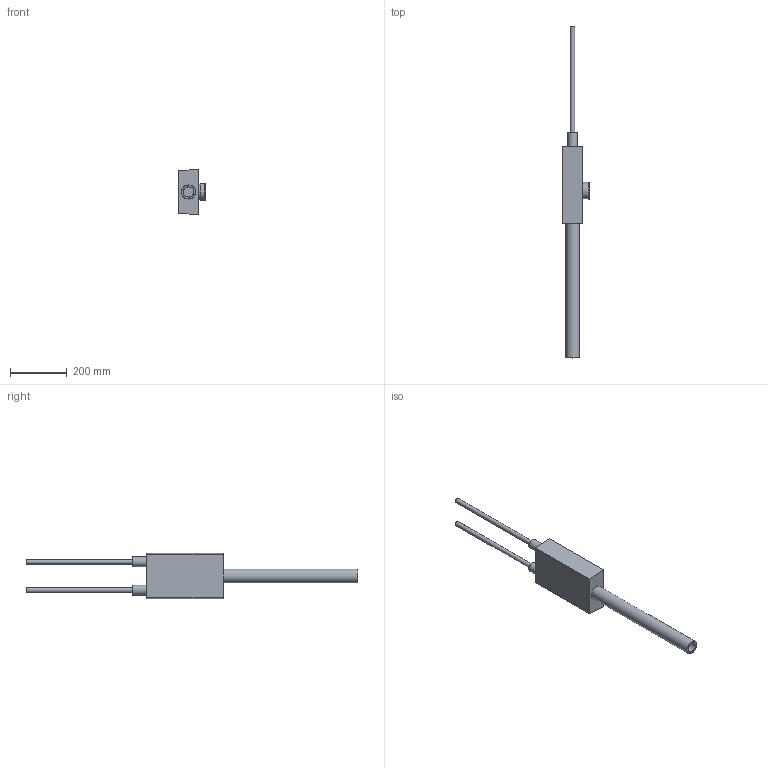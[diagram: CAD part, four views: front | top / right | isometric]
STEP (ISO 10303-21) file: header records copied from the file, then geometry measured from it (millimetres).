
FILE_DESCRIPTION(/* description */ (''),/* implementation_level */ '2;1');
FILE_NAME(/* name */ '\\LG50011\SANHA_Legnica\Engineering\Public\PROJEKTY\SANHA-BOX_Support_BiR\002-Rysunki_Boxów\325WTMO16\Zespół-325WTMO16.stp',/* time_stamp */ '2018-11-05T14:37:14+01:00',/* author */ ('gomulka'),/* organization */ (''),/* preprocessor_version */ 'ST-DEVELOPER v16.13',/* originating_system */ 'Autodesk Inventor 2018',/* authorisation */ '');
FILE_SCHEMA (('AUTOMOTIVE_DESIGN { 1 0 10303 214 3 1 1 }'));
Length unit declared in the file: millimetre
Products named in the file (5): Zespół-325WTMO16; 325WTMO16; Rura_16x2; Rura_50; Kolano_DN50-OD50_Master3
Assembly tree (5 placements, depth 2):
  Zespół-325WTMO16
    325WTMO16
    Rura_16x2  x2
    Rura_50
    Kolano_DN50-OD50_Master3
Bounding box: 94.76 x 1171.02 x 160 mm (x, y, z)
Volume: 3428867.9 mm3; surface area: 425528.6 mm2
Topology: 5 solids, 5 shells, 128 faces, 289 edges, 192 vertices
Faces by surface type: plane 87, cylinder 22, bspline 16, cone 3
Full cylindrical faces by diameter (mm): 14 x2, 16 x4, 18.631 x2, 21 x2, 30 x1, 35 x2, 35.993 x1, 48.5 x1, 50 x1, 52.269 x1, 54 x1, 55 x2, 58 x1, 60 x1
Entity records: 3657 total; most frequent: CARTESIAN_POINT 786, ORIENTED_EDGE 516, DIRECTION 504, EDGE_CURVE 258, VERTEX_POINT 186, LINE 184, VECTOR 184, EDGE_LOOP 174
